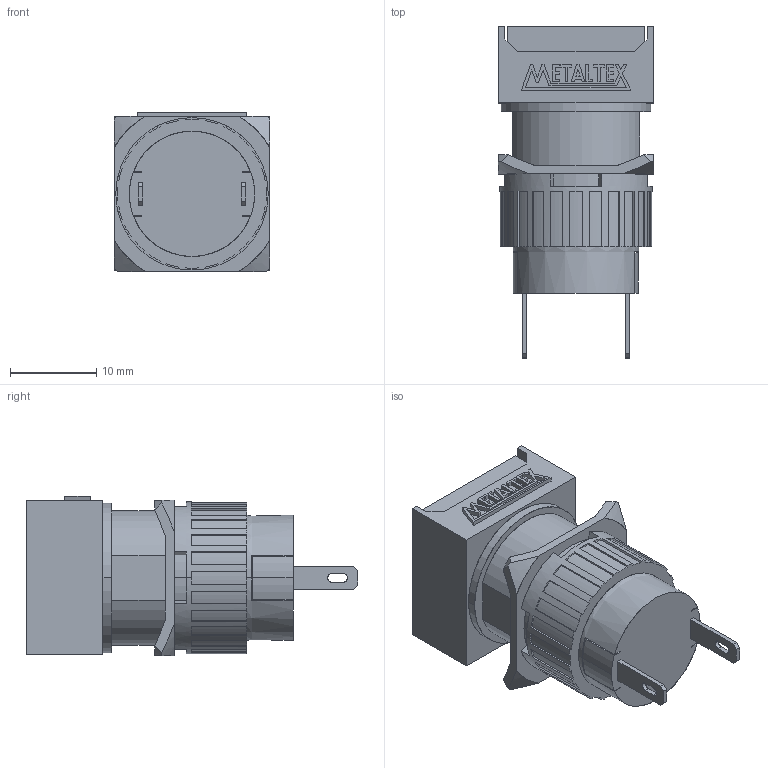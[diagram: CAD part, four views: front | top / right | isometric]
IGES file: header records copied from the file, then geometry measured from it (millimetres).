
Start section: SolidWorks IGES file using analytic representation for surfaces
Global section: file name: D:\X - Arquivos\PROEX\Empresas\P11 - METALTEX\01 - Produtos\IGES\Terceira remessa\Etapa 3\P16-PS.IGS; native system: SolidWorks 2012; preprocessor: SolidWorks 2012; author: Usuario; date: 180215.132805; units: millimetre
Bounding box: 18 x 38.4 x 18.43 mm (x, y, z)
Surface area: 3901.7 mm2 (no closed solid volume)
Topology: 0 solids, 0 shells, 305 faces, 2024 edges, 2024 vertices
Faces by surface type: bspline 246, revolution 59
